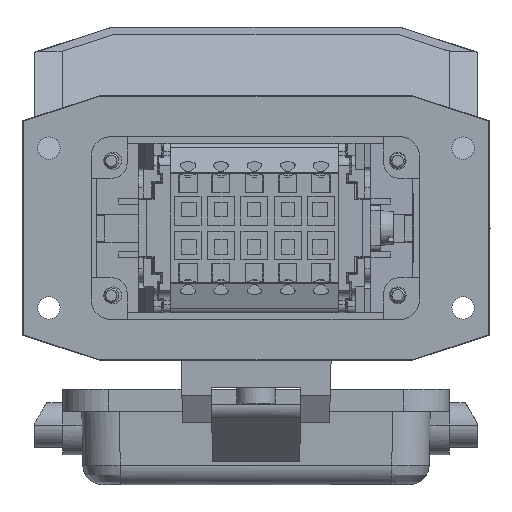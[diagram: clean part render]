
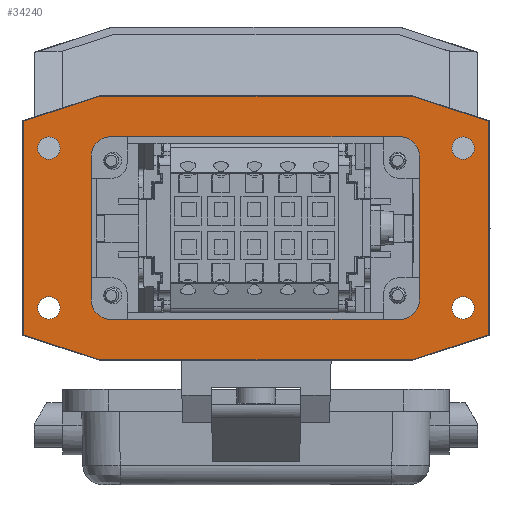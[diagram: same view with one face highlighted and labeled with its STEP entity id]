
A CAD part, front view. The second image highlights one B-rep face of the part: STEP entity #34240.
In plain terms, the highlighted planar face has unit normal (0, -1, 0) as drawn and (0, 0, -1) by its records, which use the part's own axes.
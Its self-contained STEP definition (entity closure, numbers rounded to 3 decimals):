
#30240=CARTESIAN_POINT('',(15.571,50.,
-4.));
#30250=VERTEX_POINT('',#30240);
#30330=CARTESIAN_POINT('',(10.59,34.672,
-4.));
#30340=VERTEX_POINT('',#30330);
#30370=CARTESIAN_POINT('',(0.413,3.35,
-4.));
#30380=DIRECTION('',(-0.309,-0.951,
0.));
#30390=VECTOR('',#30380,1.);
#30400=LINE('',#30370,#30390);
#30410=EDGE_CURVE('',#30250,#30340,#30400,.T.);
#30620=CARTESIAN_POINT('',(58.41,50.,
-4.));
#30630=VERTEX_POINT('',#30620);
#30680=CARTESIAN_POINT('',(14.99,50.,
-4.));
#30690=DIRECTION('',(-1.,0.,0.));
#30700=VECTOR('',#30690,1.);
#30710=LINE('',#30680,#30700);
#30720=EDGE_CURVE('',#30630,#30250,#30710,.T.);
#30930=CARTESIAN_POINT('',(63.39,34.672,
-4.));
#30940=VERTEX_POINT('',#30930);
#30990=CARTESIAN_POINT('',(73.567,3.35,
-4.));
#31000=DIRECTION('',(-0.309,0.951,
0.));
#31010=VECTOR('',#31000,1.);
#31020=LINE('',#30990,#31010);
#31030=EDGE_CURVE('',#30940,#30630,#31020,.T.);
#31240=CARTESIAN_POINT('',(63.39,-27.971,
-4.));
#31250=VERTEX_POINT('',#31240);
#31300=CARTESIAN_POINT('',(63.39,3.35,
-4.));
#31310=DIRECTION('',(0.,1.,0.));
#31320=VECTOR('',#31310,1.);
#31330=LINE('',#31300,#31320);
#31340=EDGE_CURVE('',#31250,#30940,#31330,.T.);
#31550=CARTESIAN_POINT('',(58.41,-43.3,
-4.));
#31560=VERTEX_POINT('',#31550);
#31610=CARTESIAN_POINT('',(73.567,3.35,
-4.));
#31620=DIRECTION('',(0.309,0.951,
0.));
#31630=VECTOR('',#31620,1.);
#31640=LINE('',#31610,#31630);
#31650=EDGE_CURVE('',#31560,#31250,#31640,.T.);
#31860=CARTESIAN_POINT('',(15.571,-43.3,
-4.));
#31870=VERTEX_POINT('',#31860);
#31920=CARTESIAN_POINT('',(14.99,-43.3,
-4.));
#31930=DIRECTION('',(1.,0.,0.));
#31940=VECTOR('',#31930,1.);
#31950=LINE('',#31920,#31940);
#31960=EDGE_CURVE('',#31870,#31560,#31950,.T.);
#32170=CARTESIAN_POINT('',(10.59,-27.971,
-4.));
#32180=VERTEX_POINT('',#32170);
#32230=CARTESIAN_POINT('',(0.413,3.35,
-4.));
#32240=DIRECTION('',(0.309,-0.951,
0.));
#32250=VECTOR('',#32240,1.);
#32260=LINE('',#32230,#32250);
#32270=EDGE_CURVE('',#32180,#31870,#32260,.T.);
#32470=CARTESIAN_POINT('',(10.59,3.35,
-4.));
#32480=DIRECTION('',(0.,-1.,0.));
#32490=VECTOR('',#32480,1.);
#32500=LINE('',#32470,#32490);
#32510=EDGE_CURVE('',#30340,#32180,#32500,.T.);
#32630=CARTESIAN_POINT('',(14.99,3.35,
-4.));
#32640=DIRECTION('',(0.,0.,-1.));
#32650=DIRECTION('',(-1.,0.,0.));
#32660=AXIS2_PLACEMENT_3D('',#32630,#32640,#32650);
#32670=PLANE('',#32660);
#32680=CARTESIAN_POINT('',(52.99,-38.15,
-4.));
#32690=DIRECTION('',(0.,0.,1.));
#32700=DIRECTION('',(0.,1.,0.));
#32710=AXIS2_PLACEMENT_3D('',#32680,#32690,#32700);
#32720=CIRCLE('',#32710,2.25);
#32730=CARTESIAN_POINT('',(52.99,-35.9,
-4.));
#32740=VERTEX_POINT('',#32730);
#32750=CARTESIAN_POINT('',(52.99,-40.4,
-4.));
#32760=VERTEX_POINT('',#32750);
#32770=EDGE_CURVE('',#32740,#32760,#32720,.T.);
#32780=ORIENTED_EDGE('',*,*,#32770,.T.);
#32790=CARTESIAN_POINT('',(55.24,-38.15,
-4.));
#32800=VERTEX_POINT('',#32790);
#32810=EDGE_CURVE('',#32800,#32740,#32720,.T.);
#32820=ORIENTED_EDGE('',*,*,#32810,.T.);
#32830=EDGE_CURVE('',#32760,#32800,#32720,.T.);
#32840=ORIENTED_EDGE('',*,*,#32830,.T.);
#32850=EDGE_LOOP('',(#32840,#32820,#32780));
#32860=FACE_BOUND('',#32850,.T.);
#32870=CARTESIAN_POINT('',(52.99,44.85,
-4.));
#32880=DIRECTION('',(0.,0.,-1.));
#32890=DIRECTION('',(0.,-1.,0.));
#32900=AXIS2_PLACEMENT_3D('',#32870,#32880,#32890);
#32910=CIRCLE('',#32900,2.25);
#32920=CARTESIAN_POINT('',(50.74,44.85,
-4.));
#32930=VERTEX_POINT('',#32920);
#32940=CARTESIAN_POINT('',(52.99,47.1,
-4.));
#32950=VERTEX_POINT('',#32940);
#32960=EDGE_CURVE('',#32930,#32950,#32910,.T.);
#32970=ORIENTED_EDGE('',*,*,#32960,.F.);
#32980=CARTESIAN_POINT('',(52.99,42.6,
-4.));
#32990=VERTEX_POINT('',#32980);
#33000=EDGE_CURVE('',#32950,#32990,#32910,.T.);
#33010=ORIENTED_EDGE('',*,*,#33000,.F.);
#33020=EDGE_CURVE('',#32990,#32930,#32910,.T.);
#33030=ORIENTED_EDGE('',*,*,#33020,.F.);
#33040=EDGE_LOOP('',(#33030,#33010,#32970));
#33050=FACE_BOUND('',#33040,.T.);
#33060=CARTESIAN_POINT('',(20.99,44.85,
-4.));
#33070=DIRECTION('',(0.,0.,1.));
#33080=DIRECTION('',(0.,-1.,0.));
#33090=AXIS2_PLACEMENT_3D('',#33060,#33070,#33080);
#33100=CIRCLE('',#33090,2.25);
#33110=CARTESIAN_POINT('',(20.99,47.1,
-4.));
#33120=VERTEX_POINT('',#33110);
#33130=CARTESIAN_POINT('',(20.99,42.6,
-4.));
#33140=VERTEX_POINT('',#33130);
#33150=EDGE_CURVE('',#33120,#33140,#33100,.T.);
#33160=ORIENTED_EDGE('',*,*,#33150,.T.);
#33170=CARTESIAN_POINT('',(23.24,44.85,
-4.));
#33180=VERTEX_POINT('',#33170);
#33190=EDGE_CURVE('',#33180,#33120,#33100,.T.);
#33200=ORIENTED_EDGE('',*,*,#33190,.T.);
#33210=EDGE_CURVE('',#33140,#33180,#33100,.T.);
#33220=ORIENTED_EDGE('',*,*,#33210,.T.);
#33230=EDGE_LOOP('',(#33220,#33200,#33160));
#33240=FACE_BOUND('',#33230,.T.);
#33250=CARTESIAN_POINT('',(20.99,-38.15,
-4.));
#33260=DIRECTION('',(0.,0.,-1.));
#33270=DIRECTION('',(0.,1.,0.));
#33280=AXIS2_PLACEMENT_3D('',#33250,#33260,#33270);
#33290=CIRCLE('',#33280,2.25);
#33300=CARTESIAN_POINT('',(18.74,-38.15,
-4.));
#33310=VERTEX_POINT('',#33300);
#33320=CARTESIAN_POINT('',(20.99,-35.9,
-4.));
#33330=VERTEX_POINT('',#33320);
#33340=EDGE_CURVE('',#33310,#33330,#33290,.T.);
#33350=ORIENTED_EDGE('',*,*,#33340,.F.);
#33360=CARTESIAN_POINT('',(20.99,-40.4,
-4.));
#33370=VERTEX_POINT('',#33360);
#33380=EDGE_CURVE('',#33330,#33370,#33290,.T.);
#33390=ORIENTED_EDGE('',*,*,#33380,.F.);
#33400=EDGE_CURVE('',#33370,#33310,#33290,.T.);
#33410=ORIENTED_EDGE('',*,*,#33400,.F.);
#33420=EDGE_LOOP('',(#33410,#33390,#33350));
#33430=FACE_BOUND('',#33420,.T.);
#33440=ORIENTED_EDGE('',*,*,#30720,.F.);
#33450=ORIENTED_EDGE('',*,*,#30410,.F.);
#33460=ORIENTED_EDGE('',*,*,#32510,.F.);
#33470=ORIENTED_EDGE('',*,*,#32270,.F.);
#33480=ORIENTED_EDGE('',*,*,#31960,.F.);
#33490=ORIENTED_EDGE('',*,*,#31650,.F.);
#33500=ORIENTED_EDGE('',*,*,#31340,.F.);
#33510=ORIENTED_EDGE('',*,*,#31030,.F.);
#33520=EDGE_LOOP('',(#33510,#33500,#33490,#33480,#33470,#33460,#33450,
#33440));
#33530=FACE_OUTER_BOUND('',#33520,.T.);
#33540=CARTESIAN_POINT('',(51.39,32.47,
-4.));
#33550=DIRECTION('',(0.,0.,-1.));
#33560=DIRECTION('',(0.,1.,0.));
#33570=AXIS2_PLACEMENT_3D('',#33540,#33550,#33560);
#33580=CIRCLE('',#33570,3.9);
#33590=CARTESIAN_POINT('',(51.39,36.37,
-4.));
#33600=VERTEX_POINT('',#33590);
#33610=CARTESIAN_POINT('',(55.29,32.47,
-4.));
#33620=VERTEX_POINT('',#33610);
#33630=EDGE_CURVE('',#33600,#33620,#33580,.T.);
#33640=ORIENTED_EDGE('',*,*,#33630,.F.);
#33650=CARTESIAN_POINT('',(55.29,0.,-4.));
#33660=DIRECTION('',(0.,-1.,0.));
#33670=VECTOR('',#33660,1.);
#33680=LINE('',#33650,#33670);
#33690=CARTESIAN_POINT('',(55.29,-25.53,
-4.));
#33700=VERTEX_POINT('',#33690);
#33710=EDGE_CURVE('',#33620,#33700,#33680,.T.);
#33720=ORIENTED_EDGE('',*,*,#33710,.F.);
#33730=CARTESIAN_POINT('',(51.39,-25.53,
-4.));
#33740=DIRECTION('',(0.,0.,-1.));
#33750=DIRECTION('',(1.,0.,0.));
#33760=AXIS2_PLACEMENT_3D('',#33730,#33740,#33750);
#33770=CIRCLE('',#33760,3.9);
#33780=CARTESIAN_POINT('',(51.39,-29.43,
-4.));
#33790=VERTEX_POINT('',#33780);
#33800=EDGE_CURVE('',#33700,#33790,#33770,.T.);
#33810=ORIENTED_EDGE('',*,*,#33800,.F.);
#33820=CARTESIAN_POINT('',(0.,-29.43,-4.));
#33830=DIRECTION('',(-1.,0.,0.));
#33840=VECTOR('',#33830,1.);
#33850=LINE('',#33820,#33840);
#33860=CARTESIAN_POINT('',(22.59,-29.43,
-4.));
#33870=VERTEX_POINT('',#33860);
#33880=EDGE_CURVE('',#33790,#33870,#33850,.T.);
#33890=ORIENTED_EDGE('',*,*,#33880,.F.);
#33900=CARTESIAN_POINT('',(22.59,-25.53,
-4.));
#33910=DIRECTION('',(0.,0.,-1.));
#33920=DIRECTION('',(0.,-1.,0.));
#33930=AXIS2_PLACEMENT_3D('',#33900,#33910,#33920);
#33940=CIRCLE('',#33930,3.9);
#33950=CARTESIAN_POINT('',(18.69,-25.53,
-4.));
#33960=VERTEX_POINT('',#33950);
#33970=EDGE_CURVE('',#33870,#33960,#33940,.T.);
#33980=ORIENTED_EDGE('',*,*,#33970,.F.);
#33990=CARTESIAN_POINT('',(18.69,0.,-4.));
#34000=DIRECTION('',(0.,1.,0.));
#34010=VECTOR('',#34000,1.);
#34020=LINE('',#33990,#34010);
#34030=CARTESIAN_POINT('',(18.69,32.47,
-4.));
#34040=VERTEX_POINT('',#34030);
#34050=EDGE_CURVE('',#33960,#34040,#34020,.T.);
#34060=ORIENTED_EDGE('',*,*,#34050,.F.);
#34070=CARTESIAN_POINT('',(22.59,32.47,
-4.));
#34080=DIRECTION('',(0.,0.,-1.));
#34090=DIRECTION('',(-1.,0.,0.));
#34100=AXIS2_PLACEMENT_3D('',#34070,#34080,#34090);
#34110=CIRCLE('',#34100,3.9);
#34120=CARTESIAN_POINT('',(22.59,36.37,
-4.));
#34130=VERTEX_POINT('',#34120);
#34140=EDGE_CURVE('',#34040,#34130,#34110,.T.);
#34150=ORIENTED_EDGE('',*,*,#34140,.F.);
#34160=CARTESIAN_POINT('',(0.,36.37,-4.));
#34170=DIRECTION('',(1.,0.,0.));
#34180=VECTOR('',#34170,1.);
#34190=LINE('',#34160,#34180);
#34200=EDGE_CURVE('',#34130,#33600,#34190,.T.);
#34210=ORIENTED_EDGE('',*,*,#34200,.F.);
#34220=EDGE_LOOP('',(#34210,#34150,#34060,#33980,#33890,#33810,#33720,
#33640));
#34230=FACE_BOUND('',#34220,.T.);
#34240=ADVANCED_FACE('',(#32860,#33050,#33240,#33430,#33530,#34230),
#32670,.T.);
